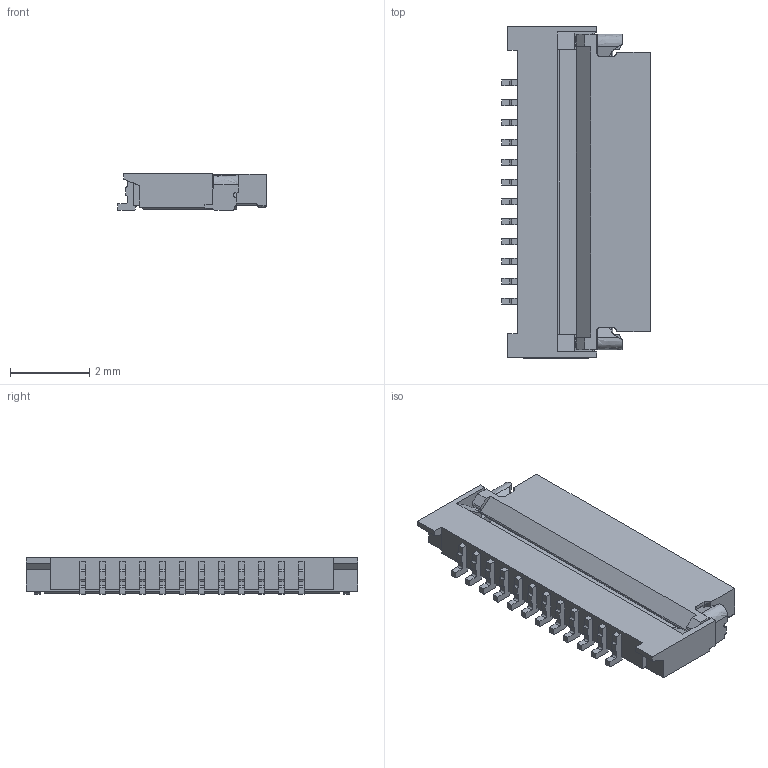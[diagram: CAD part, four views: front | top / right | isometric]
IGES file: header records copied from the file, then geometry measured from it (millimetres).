
Start section: SolidWorks IGES file using analytic representation for surfaces
Bounding box: 3.75 x 8.37 x 0.93 mm (x, y, z)
Surface area: 113.6 mm2 (no closed solid volume)
Topology: 0 solids, 0 shells, 425 faces, 2954 edges, 2926 vertices
Faces by surface type: bspline 300, revolution 125
